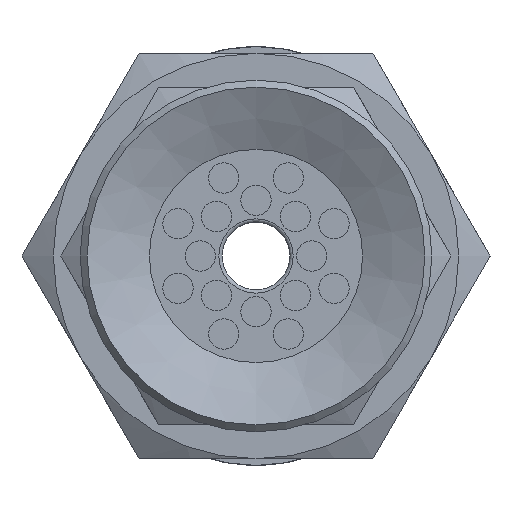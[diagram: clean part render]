
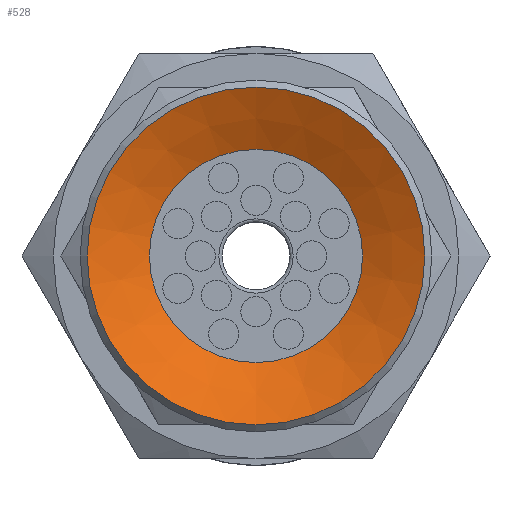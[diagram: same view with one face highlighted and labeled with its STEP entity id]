
A CAD part, front view. The second image highlights one B-rep face of the part: STEP entity #528.
In plain terms, the highlighted conical face has half-angle 64 degrees and reference radius 5 mm.
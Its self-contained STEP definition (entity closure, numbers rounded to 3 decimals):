
#528=ADVANCED_FACE('',(#824,#825),#826,.F.);
#824=FACE_BOUND('',#1275,.T.);
#825=FACE_OUTER_BOUND('',#1276,.T.);
#826=CONICAL_SURFACE('',#1277,5.0,1.117);
#1275=EDGE_LOOP('',(#2236));
#1276=EDGE_LOOP('',(#2237));
#1277=AXIS2_PLACEMENT_3D('',#2238,#2239,#2240);
#2236=ORIENTED_EDGE('',*,*,#2918,.T.);
#2237=ORIENTED_EDGE('',*,*,#2919,.F.);
#2238=CARTESIAN_POINT('',(0.0,0.,0.));
#2239=DIRECTION('',(0.0,0.,-1.0));
#2240=DIRECTION('',(0.0,1.0,0.));
#2918=EDGE_CURVE('',#3285,#3285,#3286,.T.);
#2919=EDGE_CURVE('',#3287,#3287,#3288,.T.);
#3285=VERTEX_POINT('',#4055);
#3286=CIRCLE('',#4056,3.155);
#3287=VERTEX_POINT('',#4057);
#3288=CIRCLE('',#4058,5.0);
#4055=CARTESIAN_POINT('',(0.0,-3.155,0.9));
#4056=AXIS2_PLACEMENT_3D('',#4829,#4830,#4831);
#4057=CARTESIAN_POINT('',(0.0,-5.0,0.));
#4058=AXIS2_PLACEMENT_3D('',#4832,#4833,#4834);
#4829=CARTESIAN_POINT('',(0.0,0.,0.9));
#4830=DIRECTION('',(0.0,0.,1.0));
#4831=DIRECTION('',(0.0,-1.0,0.));
#4832=CARTESIAN_POINT('',(0.0,0.,0.));
#4833=DIRECTION('',(0.0,0.,1.0));
#4834=DIRECTION('',(0.0,-1.0,0.));
